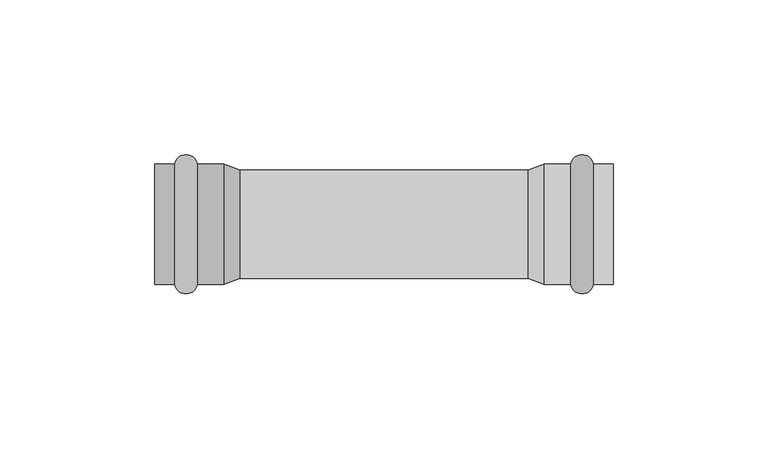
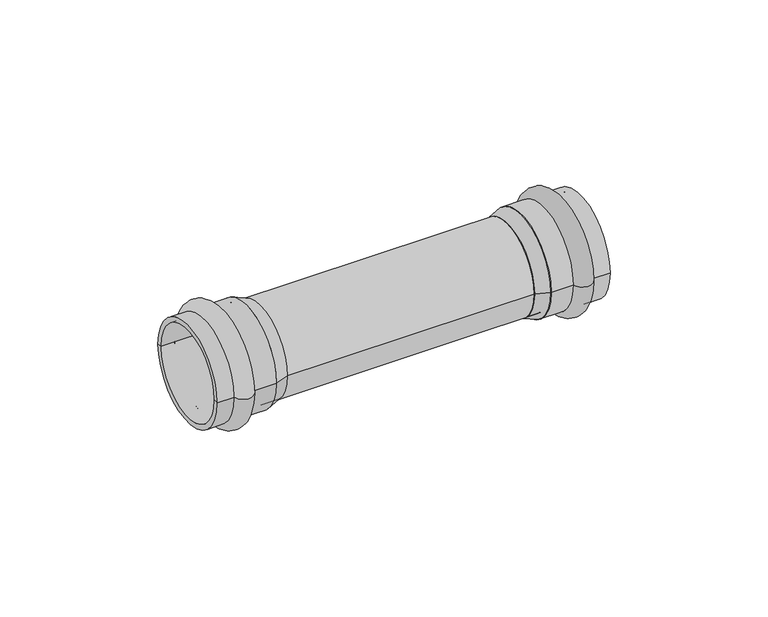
"""IFC4 building model written with IfcOpenShell, lengths in millimetres: pipe fitting geometry, VALTEC_VTi.903.I_Соединитель прямой нержавеющая сталь : VTi.903.I."""

from ifc_helpers import new_model, si_unit, point, frame, origin, origin_2d, place, context, project, spatial, polyline, circle_curve, ellipse_curve, trimmed, segment, composite_curve, outline, extrude, source, transform, mapped, element, save
from ifc_brep_helpers import plane_surface, cylinder_surface, revolved_surface, advanced_brep


def pipe_fitting_ea1b7e92(model_context):
    return source(origin(), model_context, "Body", "SolidModel", [
        advanced_brep(
        [(141.6432371, 19.4, 0.0), (141.6432371, -19.4, 0.0), (134.2567629, -19.4, 0.0), (134.2567629, 19.4, 0.0), (148.0, 19.4, 0.0), (148.0, -19.4, 0.0), (148.0, 17.5, 0.0), (148.0, -17.5, 0.0), (125.8, 17.5, 0.0), (125.8, -17.5, 0.0), (125.8, 19.4, 0.0), (125.8, -19.4, 0.0)],
        [
            (0, 1, circle_curve(frame((141.6432371, 0.0, 0.0), z_axis=(-1.0, 0.0, 0.0), x_axis=(0.0, -1.0, 0.0)), 19.4)),
            (1, 2, circle_curve(frame((137.95, -18.75, 0.0), z_axis=(0.0, 0.0, -1.0), x_axis=(-1.0, 0.0, 0.0)), 3.75)),
            (2, 3, circle_curve(frame((134.2567629, 0.0, 0.0), z_axis=(1.0, 0.0, 0.0), x_axis=(0.0, -1.0, 0.0)), 19.4)),
            (3, 0, circle_curve(frame((137.95, 18.75, 0.0), z_axis=(0.0, 0.0, -1.0), x_axis=(-1.0, 0.0, 0.0)), 3.75)),
            (1, 0, circle_curve(frame((141.6432371, 0.0, 0.0), z_axis=(-1.0, 0.0, 0.0), x_axis=(0.0, -1.0, 0.0)), 19.4)),
            (3, 2, circle_curve(frame((134.2567629, 0.0, 0.0), z_axis=(1.0, 0.0, 0.0), x_axis=(0.0, -1.0, 0.0)), 19.4)),
            (4, 5, circle_curve(frame((148.0, 0.0, 0.0), z_axis=(-1.0, 0.0, 0.0), x_axis=(0.0, -1.0, 0.0)), 19.4)),
            (5, 1),
            (0, 4),
            (5, 4, circle_curve(frame((148.0, 0.0, 0.0), z_axis=(-1.0, 0.0, 0.0), x_axis=(0.0, -1.0, 0.0)), 19.4)),
            (6, 7, circle_curve(frame((148.0, 0.0, 0.0), z_axis=(-1.0, 0.0, 0.0), x_axis=(0.0, -1.0, 0.0)), 17.5)),
            (7, 5),
            (4, 6),
            (7, 6, circle_curve(frame((148.0, 0.0, 0.0), z_axis=(-1.0, 0.0, 0.0), x_axis=(0.0, -1.0, 0.0)), 17.5)),
            (8, 9, circle_curve(frame((125.8, 0.0, 0.0), z_axis=(-1.0, 0.0, 0.0), x_axis=(0.0, -1.0, 0.0)), 17.5)),
            (9, 7),
            (6, 8),
            (9, 8, circle_curve(frame((125.8, 0.0, 0.0), z_axis=(-1.0, 0.0, 0.0), x_axis=(0.0, -1.0, 0.0)), 17.5)),
            (10, 11, circle_curve(frame((125.8, 0.0, 0.0), z_axis=(-1.0, 0.0, 0.0), x_axis=(0.0, -1.0, 0.0)), 19.4)),
            (11, 9),
            (8, 10),
            (11, 10, circle_curve(frame((125.8, 0.0, 0.0), z_axis=(-1.0, 0.0, 0.0), x_axis=(0.0, -1.0, 0.0)), 19.4)),
            (2, 11),
            (10, 3),
        ],
        [
            revolved_surface(trimmed(ellipse_curve(frame((137.95, -18.75, 0.0), z_axis=(0.0, 0.0, 1.0), x_axis=(-1.0, 0.0, 0.0)), 3.75, 3.75), [point((134.2567629, -19.4, 0.0))], [point((141.6432371, -19.4, 0.0))], True, "CARTESIAN"), (151.5364426, 0.0, 0.0), (1.0, 0.0, 0.0)),
            cylinder_surface(frame((151.5364426, 0.0, 0.0), z_axis=(1.0, 0.0, 0.0), x_axis=(0.0, -1.0, 0.0)), 19.4),
            plane_surface(frame((148.0, 0.0, 0.0), z_axis=(1.0, 0.0, 0.0), x_axis=(0.0, -1.0, 0.0))),
            revolved_surface(polyline([(148.0, -17.5, 0.0), (125.8, -17.5, 0.0)]), (151.5364426, 0.0, 0.0), (1.0, 0.0, 0.0)),
            plane_surface(frame((125.8, 0.0, 0.0), z_axis=(-1.0, 0.0, 0.0), x_axis=(0.0, -1.0, 0.0))),
        ],
        [
            (0, [[1, 2, 3, 4]]),
            (0, [[5, -4, 6, -2]]),
            (1, [[7, 8, -1, 9]]),
            (1, [[10, -9, -5, -8]]),
            (2, [[11, 12, -7, 13]]),
            (2, [[14, -13, -10, -12]]),
            (3, [[15, 16, -11, 17]]),
            (3, [[18, -17, -14, -16]]),
            (4, [[19, 20, -15, 21]]),
            (4, [[22, -21, -18, -20]]),
            (1, [[-3, 23, -19, 24]]),
            (1, [[-6, -24, -22, -23]]),
        ],
    ),
        advanced_brep(
        [(6.3567629, -19.4, 0.0), (6.3567629, 19.4, 0.0), (13.7432371, 19.4, 0.0), (13.7432371, -19.4, 0.0), (0.0, -19.4, 0.0), (0.0, 19.4, 0.0), (0.0, -17.5, 0.0), (0.0, 17.5, 0.0), (22.2, -17.5, 0.0), (22.2, 17.5, 0.0), (22.2, -19.4, 0.0), (22.2, 19.4, 0.0)],
        [
            (0, 1, circle_curve(frame((6.3567629, 0.0, 0.0), z_axis=(1.0, 0.0, 0.0), x_axis=(0.0, 1.0, 0.0)), 19.4)),
            (1, 2, circle_curve(frame((10.05, 18.75, 0.0), z_axis=(0.0, 0.0, -1.0), x_axis=(1.0, 0.0, 0.0)), 3.75)),
            (2, 3, circle_curve(frame((13.7432371, 0.0, 0.0), z_axis=(-1.0, 0.0, 0.0), x_axis=(0.0, 1.0, 0.0)), 19.4)),
            (3, 0, circle_curve(frame((10.05, -18.75, 0.0), z_axis=(0.0, 0.0, -1.0), x_axis=(1.0, 0.0, 0.0)), 3.75)),
            (1, 0, circle_curve(frame((6.3567629, 0.0, 0.0), z_axis=(1.0, 0.0, 0.0), x_axis=(0.0, 1.0, 0.0)), 19.4)),
            (3, 2, circle_curve(frame((13.7432371, 0.0, 0.0), z_axis=(-1.0, 0.0, 0.0), x_axis=(0.0, 1.0, 0.0)), 19.4)),
            (4, 5, circle_curve(frame((0.0, 0.0, 0.0), z_axis=(1.0, 0.0, 0.0), x_axis=(0.0, 1.0, 0.0)), 19.4)),
            (5, 1),
            (0, 4),
            (5, 4, circle_curve(frame((0.0, 0.0, 0.0), z_axis=(1.0, 0.0, 0.0), x_axis=(0.0, 1.0, 0.0)), 19.4)),
            (6, 7, circle_curve(frame((0.0, 0.0, 0.0), z_axis=(1.0, 0.0, 0.0), x_axis=(0.0, 1.0, 0.0)), 17.5)),
            (7, 5),
            (4, 6),
            (7, 6, circle_curve(frame((0.0, 0.0, 0.0), z_axis=(1.0, 0.0, 0.0), x_axis=(0.0, 1.0, 0.0)), 17.5)),
            (8, 9, circle_curve(frame((22.2, 0.0, 0.0), z_axis=(1.0, 0.0, 0.0), x_axis=(0.0, 1.0, 0.0)), 17.5)),
            (9, 7),
            (6, 8),
            (9, 8, circle_curve(frame((22.2, 0.0, 0.0), z_axis=(1.0, 0.0, 0.0), x_axis=(0.0, 1.0, 0.0)), 17.5)),
            (10, 11, circle_curve(frame((22.2, 0.0, 0.0), z_axis=(1.0, 0.0, 0.0), x_axis=(0.0, 1.0, 0.0)), 19.4)),
            (11, 9),
            (8, 10),
            (11, 10, circle_curve(frame((22.2, 0.0, 0.0), z_axis=(1.0, 0.0, 0.0), x_axis=(0.0, 1.0, 0.0)), 19.4)),
            (2, 11),
            (10, 3),
        ],
        [
            revolved_surface(trimmed(ellipse_curve(frame((10.05, 18.75, 0.0), z_axis=(0.0, 0.0, 1.0), x_axis=(1.0, 0.0, 0.0)), 3.75, 3.75), [point((13.7432371, 19.4, 0.0))], [point((6.3567629, 19.4, 0.0))], True, "CARTESIAN"), (-3.5364426, 0.0, 0.0), (-1.0, 0.0, 0.0)),
            cylinder_surface(frame((-3.5364426, 0.0, 0.0), z_axis=(-1.0, 0.0, 0.0), x_axis=(0.0, 1.0, 0.0)), 19.4),
            plane_surface(frame((0.0, 0.0, 0.0), z_axis=(-1.0, 0.0, 0.0), x_axis=(0.0, 1.0, 0.0))),
            revolved_surface(polyline([(0.0, 17.5, 0.0), (22.2, 17.5, 0.0)]), (-3.5364426, 0.0, 0.0), (-1.0, 0.0, 0.0)),
            plane_surface(frame((22.2, 0.0, 0.0), z_axis=(1.0, 0.0, 0.0), x_axis=(0.0, 1.0, 0.0))),
        ],
        [
            (0, [[1, 2, 3, 4]]),
            (0, [[5, -4, 6, -2]]),
            (1, [[7, 8, -1, 9]]),
            (1, [[10, -9, -5, -8]]),
            (2, [[11, 12, -7, 13]]),
            (2, [[14, -13, -10, -12]]),
            (3, [[15, 16, -11, 17]]),
            (3, [[18, -17, -14, -16]]),
            (4, [[19, 20, -15, 21]]),
            (4, [[22, -21, -18, -20]]),
            (1, [[-3, 23, -19, 24]]),
            (1, [[-6, -24, -22, -23]]),
        ],
    ),
        advanced_brep(
        [(22.2, -19.4, 0.0), (22.2, 19.4, 0.0), (27.38, -17.5, 0.0), (27.38, 17.5, 0.0)],
        [
            (0, 1, circle_curve(frame((22.2, 0.0, 0.0), z_axis=(-1.0, 0.0, 0.0), x_axis=(0.0, -1.0, 0.0)), 19.4)),
            (1, 0, circle_curve(frame((22.2, 0.0, 0.0), z_axis=(-1.0, 0.0, 0.0), x_axis=(0.0, 1.0, 0.0)), 19.4)),
            (2, 3, circle_curve(frame((27.38, 0.0, 0.0), z_axis=(1.0, 0.0, 0.0), x_axis=(0.0, 1.0, 0.0)), 17.5)),
            (3, 2, circle_curve(frame((27.38, 0.0, 0.0), z_axis=(1.0, 0.0, 0.0), x_axis=(0.0, -1.0, 0.0)), 17.5)),
            (2, 0),
            (1, 3),
        ],
        [
            plane_surface(frame((22.2, 0.0, 0.0), z_axis=(-1.0, 0.0, 0.0), x_axis=(0.0, 0.0, 1.0))),
            plane_surface(frame((27.38, 0.0, 0.0), z_axis=(1.0, 0.0, 0.0), x_axis=(0.0, 0.0, 1.0))),
            revolved_surface(polyline([(27.379999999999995, -17.49999999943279, 0.0), (22.200000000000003, -19.4, 0.0)]), (75.0905263, 0.0, 0.0), (-1.0, 0.0, 0.0)),
            revolved_surface(polyline([(27.379999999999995, 17.49999999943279, 0.0), (22.200000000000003, 19.4, 0.0)]), (75.0905263, 0.0, 0.0), (-1.0, 0.0, 0.0)),
        ],
        [
            (0, [[1, 2]]),
            (1, [[3, 4]]),
            (2, [[-3, 5, -2, 6]]),
            (3, [[-4, -6, -1, -5]]),
        ],
    ),
        advanced_brep(
        [(125.8, -19.4, 0.0), (125.8, 19.4, 0.0), (120.62, -17.5, 0.0), (120.62, 17.5, 0.0)],
        [
            (0, 1, circle_curve(frame((125.8, 0.0, 0.0), z_axis=(1.0, 0.0, 0.0), x_axis=(0.0, -1.0, 0.0)), 19.4)),
            (1, 0, circle_curve(frame((125.8, 0.0, 0.0), z_axis=(1.0, 0.0, 0.0), x_axis=(0.0, 1.0, 0.0)), 19.4)),
            (2, 3, circle_curve(frame((120.62, 0.0, 0.0), z_axis=(-1.0, 0.0, 0.0), x_axis=(0.0, 1.0, 0.0)), 17.5)),
            (3, 2, circle_curve(frame((120.62, 0.0, 0.0), z_axis=(-1.0, 0.0, 0.0), x_axis=(0.0, -1.0, 0.0)), 17.5)),
            (3, 1),
            (0, 2),
        ],
        [
            plane_surface(frame((125.8, 0.0, 0.0), z_axis=(1.0, 0.0, 0.0), x_axis=(0.0, 0.0, -1.0))),
            plane_surface(frame((120.62, 0.0, 0.0), z_axis=(-1.0, 0.0, 0.0), x_axis=(0.0, 0.0, -1.0))),
            revolved_surface(polyline([(120.62, 17.49999999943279, 0.0), (125.8, 19.4, 0.0)]), (72.9094737, 0.0, 0.0), (1.0, 0.0, 0.0)),
            revolved_surface(polyline([(120.62, -17.49999999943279, 0.0), (125.8, -19.4, 0.0)]), (72.9094737, 0.0, 0.0), (1.0, 0.0, 0.0)),
        ],
        [
            (0, [[1, 2]]),
            (1, [[3, 4]]),
            (2, [[-4, 5, -1, 6]]),
            (3, [[-3, -6, -2, -5]]),
        ],
    ),
        extrude(outline(composite_curve([segment(trimmed(circle_curve(origin_2d(), 17.5), [point((-17.5, 0.0))], [point((17.5, 0.0))], False, "CARTESIAN"), True, "CONTINUOUS"), segment(trimmed(circle_curve(origin_2d(), 17.5), [point((17.5, 0.0))], [point((-17.5, 0.0))], False, "CARTESIAN"), True, "CONTINUOUS")], self_intersect=False)), frame((22.2, 0.0, 0.0), z_axis=(1.0, 0.0, 0.0), x_axis=(0.0, 1.0, 0.0)), (0.0, 0.0, 1.0), 103.6),
    ])


if __name__ == "__main__":
    model = new_model("IFC4")
    model_context = context("Model", 3, world=origin())
    ifc_project = project(units=[si_unit("LENGTHUNIT", "METRE", prefix="MILLI")], contexts=[model_context])
    site = spatial("IfcSite", under=ifc_project)
    building = spatial("IfcBuilding", under=site)
    placement = place(None, origin())
    pipe_fitting_shape = pipe_fitting_ea1b7e92(model_context)
    element("IfcPipeFitting", 1, ObjectType="VALTEC_VTi.903.I_Соединитель прямой нержавеющая сталь : VTi.903.I", at=placement, inside=building, context=model_context, shape_type="MappedRepresentation", body=[
        mapped(pipe_fitting_shape, transform((0.0, 0.0, 0.0), x_axis=(1.0, 0.0, 0.0), y_axis=(0.0, 1.0, 0.0), z_axis=(0.0, 0.0, 1.0))),
    ])
    save(model, "model.ifc")
